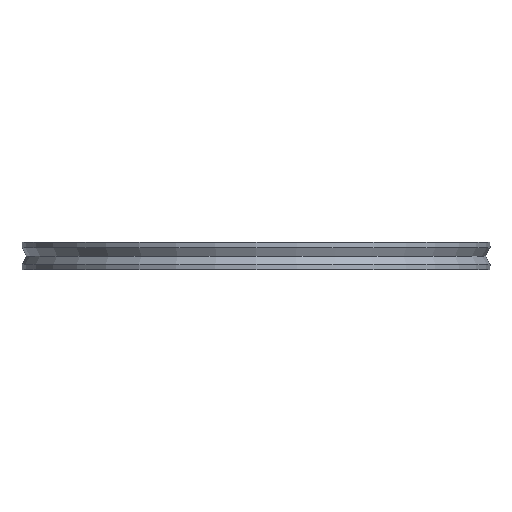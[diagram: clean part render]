
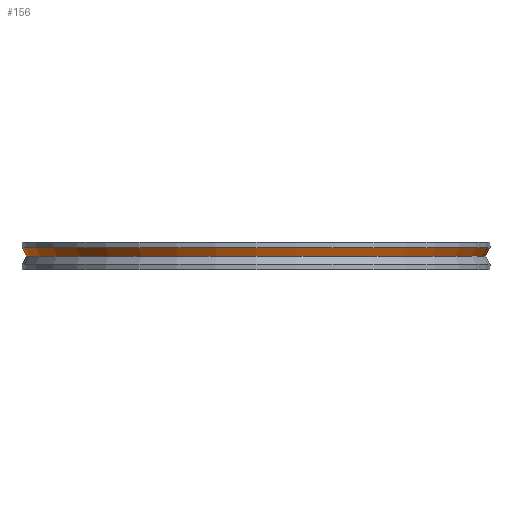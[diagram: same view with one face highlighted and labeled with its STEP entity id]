
A CAD part, front view. The second image highlights one B-rep face of the part: STEP entity #156.
In plain terms, the highlighted conical face has half-angle 27.5 degrees and reference radius 95 mm.
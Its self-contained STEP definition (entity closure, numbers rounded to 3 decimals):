
#18 = DIRECTION ( 'NONE',  ( -0.462, 0., 0.887 ) ) ;
#19 = VERTEX_POINT ( 'NONE', #370 ) ;
#29 = CIRCLE ( 'NONE', #81, 95. ) ;
#39 = CARTESIAN_POINT ( 'NONE',  ( 95., 0., -2.138 ) ) ;
#52 = ORIENTED_EDGE ( 'NONE', *, *, #538, .F. ) ;
#55 = LINE ( 'NONE', #188, #489 ) ;
#81 = AXIS2_PLACEMENT_3D ( 'NONE', #412, #807, #398 ) ;
#129 = FACE_OUTER_BOUND ( 'NONE', #595, .T. ) ;
#152 = VECTOR ( 'NONE', #18, 1000. ) ;
#156 = ADVANCED_FACE ( 'NONE', ( #129 ), #724, .T. ) ;
#164 = VERTEX_POINT ( 'NONE', #553 ) ;
#188 = CARTESIAN_POINT ( 'NONE',  ( 95., 0., -2.138 ) ) ;
#213 = ORIENTED_EDGE ( 'NONE', *, *, #352, .F. ) ;
#235 = ORIENTED_EDGE ( 'NONE', *, *, #517, .T. ) ;
#262 = CIRCLE ( 'NONE', #618, 93.25 ) ;
#278 = CARTESIAN_POINT ( 'NONE',  ( -95., 0., -2.138 ) ) ;
#330 = DIRECTION ( 'NONE',  ( 0., 0., 1. ) ) ;
#331 = ORIENTED_EDGE ( 'NONE', *, *, #403, .T. ) ;
#339 = AXIS2_PLACEMENT_3D ( 'NONE', #754, #330, #549 ) ;
#352 = EDGE_CURVE ( 'NONE', #19, #164, #422, .T. ) ;
#370 = CARTESIAN_POINT ( 'NONE',  ( -93.25, 0., -5.5 ) ) ;
#398 = DIRECTION ( 'NONE',  ( 1., 0., 0. ) ) ;
#403 = EDGE_CURVE ( 'NONE', #19, #457, #262, .T. ) ;
#412 = CARTESIAN_POINT ( 'NONE',  ( 0., 0., -2.138 ) ) ;
#422 = LINE ( 'NONE', #278, #152 ) ;
#457 = VERTEX_POINT ( 'NONE', #730 ) ;
#470 = DIRECTION ( 'NONE',  ( 0.462, 0., 0.887 ) ) ;
#472 = VERTEX_POINT ( 'NONE', #39 ) ;
#489 = VECTOR ( 'NONE', #470, 1000. ) ;
#517 = EDGE_CURVE ( 'NONE', #457, #472, #55, .T. ) ;
#538 = EDGE_CURVE ( 'NONE', #164, #472, #29, .T. ) ;
#549 = DIRECTION ( 'NONE',  ( 1., 0., 0. ) ) ;
#553 = CARTESIAN_POINT ( 'NONE',  ( -95., 0., -2.138 ) ) ;
#565 = CARTESIAN_POINT ( 'NONE',  ( 0., 0., -5.5 ) ) ;
#595 = EDGE_LOOP ( 'NONE', ( #213, #331, #235, #52 ) ) ;
#618 = AXIS2_PLACEMENT_3D ( 'NONE', #565, #835, #787 ) ;
#724 = CONICAL_SURFACE ( 'NONE', #339, 95., 0.48 ) ;
#730 = CARTESIAN_POINT ( 'NONE',  ( 93.25, 0., -5.5 ) ) ;
#754 = CARTESIAN_POINT ( 'NONE',  ( 0., 0., -2.138 ) ) ;
#787 = DIRECTION ( 'NONE',  ( 1., 0., 0. ) ) ;
#807 = DIRECTION ( 'NONE',  ( 0., 0., 1. ) ) ;
#835 = DIRECTION ( 'NONE',  ( 0., 0., 1. ) ) ;
